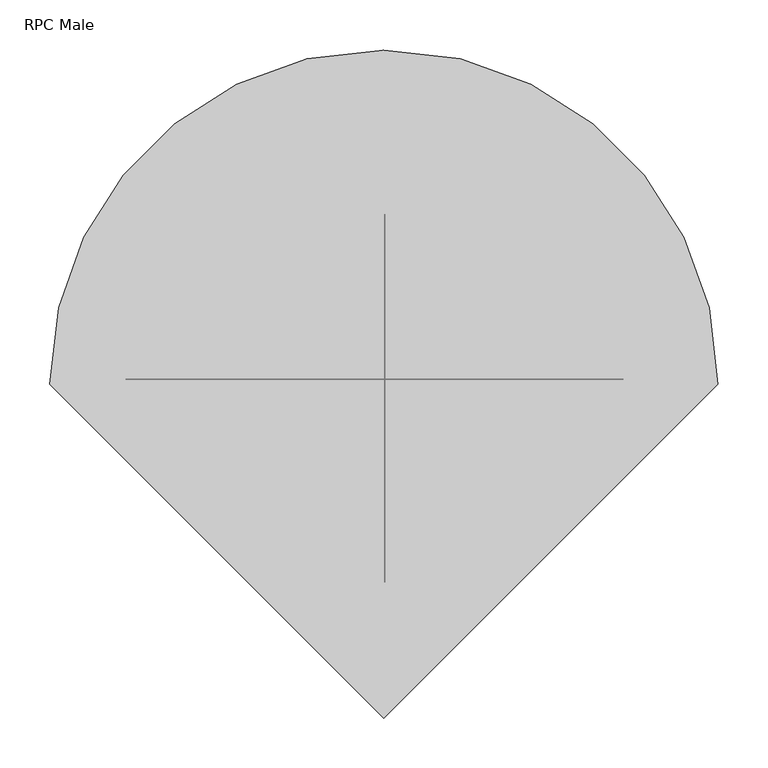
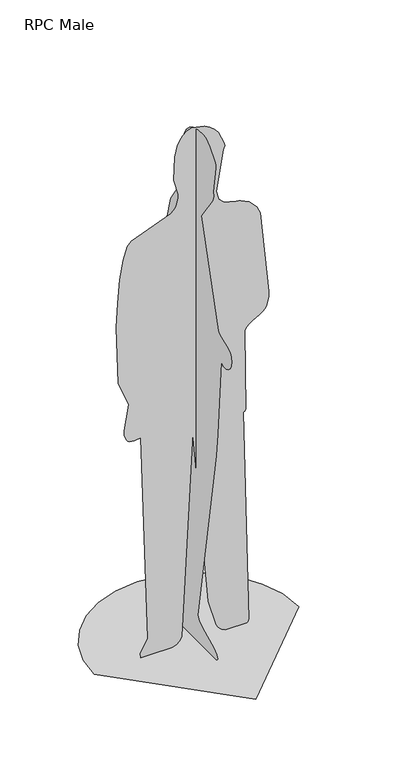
"""IFC4 building model written with IfcOpenShell, lengths in millimetres: proxy geometry, RPC Male : Dwayne."""

import ifcopenshell
import ifcopenshell.guid

model = None  # the IFC model being written
_history = None  # IfcOwnerHistory: only IFC2X3 demands one
_inside = {}  # id of a spatial element -> (the spatial element, [elements in it])
_under = {}  # id of a project, library or spatial element -> (it, [spatial elements below it])
_declared = {}  # id of a project -> (the project, [libraries it declares])
_typed = {}  # id of a type object -> (the type object, [elements of that type])
_made_of = {}  # id of a material, layer set ... -> (it, [elements and type objects made of it])


def new_model(schema):
    """Start an empty IFC model of exactly this schema.

    Asked for "IFC4X3", IfcOpenShell would pick the latest addendum, in which some entities
    have other attributes; the version numbers below select the first issue.
    IFC2X3 requires an IfcOwnerHistory on every rooted entity: one is made here for all.
    """
    global model, _history
    if schema == "IFC4X3":
        model = ifcopenshell.file(schema_version=(4, 3, 0, 0))
    else:
        model = ifcopenshell.file(schema=schema)
    _inside.clear()
    _under.clear()
    _declared.clear()
    _typed.clear()
    _made_of.clear()
    _history = None
    if model.schema == "IFC2X3":
        org = make("IfcOrganization", Name="unknown")
        user = make(
            "IfcPersonAndOrganization",
            ThePerson=make("IfcPerson", FamilyName="unknown"),
            TheOrganization=org,
        )
        app = make(
            "IfcApplication",
            ApplicationDeveloper=org,
            Version="unknown",
            ApplicationFullName="unknown",
            ApplicationIdentifier="unknown",
        )
        _history = make(
            "IfcOwnerHistory",
            OwningUser=user,
            OwningApplication=app,
            ChangeAction="ADDED",
            CreationDate=0,
        )
    return model


def make(cls, **values):
    """One entity of the class cls with the attributes given. An attribute that is None is left unset."""
    return model.create_entity(
        cls, **{name: value for name, value in values.items() if value is not None}
    )


def rooted(cls, **values):
    """An entity with a GlobalId (a new one), such as an element, a storey or a relation."""
    return make(cls, GlobalId=ifcopenshell.guid.new(), OwnerHistory=_history, **values)


def si_unit(unit_type, name, prefix=None):
    """IfcSIUnit, for example si_unit("LENGTHUNIT", "METRE", prefix="MILLI")."""
    return make("IfcSIUnit", UnitType=unit_type, Prefix=prefix, Name=name)


def assignment(units):
    """IfcUnitAssignment: the units of a project."""
    return None if units is None else make("IfcUnitAssignment", Units=units)


def point(xyz):
    """IfcCartesianPoint."""
    return None if xyz is None else make("IfcCartesianPoint", Coordinates=xyz)


def direction(xyz):
    """IfcDirection."""
    return None if xyz is None else make("IfcDirection", DirectionRatios=xyz)


def frame(location, z_axis=None, x_axis=None):
    """IfcAxis2Placement3D, a coordinate frame: its origin and axes. An axis left out is left unset."""
    return make(
        "IfcAxis2Placement3D",
        Location=point(location),
        Axis=direction(z_axis),
        RefDirection=direction(x_axis),
    )


def origin():
    """The frame at (0, 0, 0) with its axes left unset."""
    return frame((0.0, 0.0, 0.0))


def place(relative_to, where):
    """IfcLocalPlacement: puts the frame where relative to a parent placement (None: the world)."""
    return make(
        "IfcLocalPlacement", PlacementRelTo=relative_to, RelativePlacement=where
    )


def context(
    kind, dimensions, precision=None, world=None, true_north=None, identifier=None
):
    """IfcGeometricRepresentationContext, for example the 3D "Model" context."""
    return make(
        "IfcGeometricRepresentationContext",
        ContextIdentifier=identifier,
        ContextType=kind,
        CoordinateSpaceDimension=dimensions,
        Precision=precision,
        WorldCoordinateSystem=world,
        TrueNorth=true_north,
    )


def project(units=None, contexts=None):
    """IfcProject with its units and contexts."""
    return rooted(
        "IfcProject",
        Name="project",
        RepresentationContexts=contexts,
        UnitsInContext=assignment(units),
    )


def spatial(cls, under=None, at=None, **own):
    """A site, building, storey or space (cls), placed at a placement, below another one or the project."""
    s = rooted(cls, ObjectPlacement=at, **own)
    if under is not None:
        _under.setdefault(under.id(), (under, []))[1].append(s)
    return s


def point_list(points):
    """IfcCartesianPointList2D or 3D."""
    cls = (
        "IfcCartesianPointList2D" if len(points[0]) == 2 else "IfcCartesianPointList3D"
    )
    return make(cls, CoordList=points)


def triangles(points, corners, closed=None, point_numbers=None):
    """IfcTriangulatedFaceSet: each triangle names its three corners, points numbered from 1."""
    return make(
        "IfcTriangulatedFaceSet",
        Coordinates=point_list(points),
        Closed=closed,
        CoordIndex=corners,
        PnIndex=point_numbers,
    )


def shape(context_of_items, identifier, shape_type, items):
    """IfcShapeRepresentation: the items that make up one representation, for example the "Body"."""
    return make(
        "IfcShapeRepresentation",
        ContextOfItems=context_of_items,
        RepresentationIdentifier=identifier,
        RepresentationType=shape_type,
        Items=items,
    )


def source(mapping_origin, context_of_items, identifier, shape_type, items):
    """IfcRepresentationMap: a shape defined once, which mapped items show again and again."""
    return make(
        "IfcRepresentationMap",
        MappingOrigin=mapping_origin,
        MappedRepresentation=shape(context_of_items, identifier, shape_type, items),
    )


def transform(
    local_origin,
    x_axis=None,
    y_axis=None,
    z_axis=None,
    scale=None,
    scale2=None,
    scale3=None,
    uniform=True,
):
    """IfcCartesianTransformationOperator3D, or its non-uniform kind. x_axis, y_axis, z_axis: its Axis1, 2, 3."""
    if uniform:
        return make(
            "IfcCartesianTransformationOperator3D",
            Axis1=direction(x_axis),
            Axis2=direction(y_axis),
            LocalOrigin=point(local_origin),
            Scale=scale,
            Axis3=direction(z_axis),
        )
    return make(
        "IfcCartesianTransformationOperator3DnonUniform",
        Axis1=direction(x_axis),
        Axis2=direction(y_axis),
        LocalOrigin=point(local_origin),
        Scale=scale,
        Axis3=direction(z_axis),
        Scale2=scale2,
        Scale3=scale3,
    )


def mapped(mapping_source, mapping_target):
    """IfcMappedItem: shows the shape of a source again, moved by a transform."""
    return make(
        "IfcMappedItem", MappingSource=mapping_source, MappingTarget=mapping_target
    )


def made_of(thing, what):
    """Note that an element or type object is made of a material, layer set ...; save() writes the relation."""
    if what is not None:
        _made_of.setdefault(what.id(), (what, []))[1].append(thing)
    return thing


def element(
    cls,
    number,
    at=None,
    inside=None,
    cuts=None,
    type_object=None,
    material=None,
    context=None,
    identifier="Body",
    shape_type=None,
    held_by="IfcProductDefinitionShape",
    body=None,
    shapes=None,
    **own,
):
    """One element of the class cls, such as IfcWall. Its Tag is "e" and its number.

    at: its placement. inside: the storey or other place that contains it. cuts: it is an
    opening in that element (IfcRelVoidsElement). A single representation is given by context,
    identifier, shape_type and body (its items); several are given by shapes. held_by: the class
    of the entity that holds the representations. save() writes the other relations.
    """
    e = rooted(cls, Tag="e%d" % number, ObjectPlacement=at, **own)
    if body is not None:
        shapes = [shape(context, identifier, shape_type, body)]
    if shapes is not None:
        e.Representation = make(held_by, Representations=shapes)
    if inside is not None:
        _inside.setdefault(inside.id(), (inside, []))[1].append(e)
    if cuts is not None:
        rooted(
            "IfcRelVoidsElement", RelatingBuildingElement=cuts, RelatedOpeningElement=e
        )
    if type_object is not None:
        _typed.setdefault(type_object.id(), (type_object, []))[1].append(e)
    return made_of(e, material)


def aggregate(whole, parts):
    """IfcRelAggregates: a whole, such as a stair, and the parts it consists of."""
    return rooted("IfcRelAggregates", RelatingObject=whole, RelatedObjects=parts)


def save(model, path):
    """Write the relations noted so far, then the file.

    IfcRelAggregates (storeys below a building ...), IfcRelContainedInSpatialStructure (elements
    in a storey), IfcRelDefinesByType, IfcRelAssociatesMaterial and IfcRelDeclares: one each for
    every whole, place, type object, material and project.
    """
    for whole, parts in _under.values():
        aggregate(whole, parts)
    for where, things in _inside.values():
        rooted(
            "IfcRelContainedInSpatialStructure",
            RelatedElements=things,
            RelatingStructure=where,
        )
    for kind, things in _typed.values():
        rooted("IfcRelDefinesByType", RelatedObjects=things, RelatingType=kind)
    for what, things in _made_of.values():
        rooted("IfcRelAssociatesMaterial", RelatedObjects=things, RelatingMaterial=what)
    for by, libraries in _declared.values():
        rooted("IfcRelDeclares", RelatingContext=by, RelatedDefinitions=libraries)
    model.write(path)


def rpc_male_28878092(model_context):
    return source(origin(), model_context, "Body", "Tessellation", [
        triangles([(180.7519758, 4.45e-05, 5.61e-05), (184.2427693, 8.8e-06, 2.7953145), (186.1721755, -1.66e-05, 5.8375002), (186.8316374, -3.35e-05, 9.127569), (168.2846227, -8.5e-06, 733.0652109), (173.8813015, -8.5e-06, 735.2240908), (177.6698602, -8.1e-06, 740.93319), (174.1985423, 8.1e-06, 1013.6682867), (179.591309, 8.8e-06, 1024.1651751), (188.0395216, 9.6e-06, 1032.7759867), (198.5267085, 9.9e-06, 1040.1126028), (210.0363257, 1.03e-05, 1046.7864687), (221.5520472, 1.07e-05, 1053.4092476), (232.0572199, 1.1e-05, 1060.5929661), (240.5353907, 1.14e-05, 1068.9488514), (245.9518842, 1.21e-05, 1078.9880642), (249.7386988, 1.29e-05, 1091.9821838), (252.1552483, 1.4e-05, 1106.9298906), (253.4607645, 1.47e-05, 1122.8295742), (224.2188539, 3.16e-05, 1405.054644), (213.7949444, 3.31e-05, 1430.2019463), (189.1319694, 3.46e-05, 1456.0842327), (160.624934, 3.53e-05, 1468.8737137), (131.9229886, 3.57e-05, 1475.6378357), (106.6752928, 3.64e-05, 1483.4436092), (88.5310242, 3.71e-05, 1499.3593529), (81.1392697, 3.9e-05, 1530.4516411), (102.942045, 4.71e-05, 1666.4696468), (107.9472446, 4.78e-05, 1679.2650867), (108.1474504, 4.82e-05, 1680.5741638), (107.984815, 4.82e-05, 1682.7587688), (107.5268306, 4.82e-05, 1685.5190655), (106.840944, 4.86e-05, 1688.5553627), (86.6409052, 5.11e-05, 1733.0902897), (74.2774293, 5.19e-05, 1747.7183212), (59.5121605, 5.26e-05, 1759.6594528), (42.363121, 5.33e-05, 1768.7777916), (0.9855255, 5.37e-05, 1777.9990311), (-15.8808757, 5.33e-05, 1772.5528519), (-29.1619555, 5.26e-05, 1761.5639877), (-39.2640369, 5.19e-05, 1747.0962662), (-46.5934632, 5.08e-05, 1731.2140961), (-56.009163, 4.89e-05, 1695.7207684), (-59.1639487, 4.41e-05, 1618.2087845), (-44.4858339, 4.12e-05, 1564.7278919), (-44.3096682, 4.05e-05, 1551.1862766), (-46.5532813, 3.94e-05, 1537.9279289), (-51.2886345, 3.86e-05, 1525.4359589), (-58.5876575, 3.83e-05, 1514.1926044), (-68.5223164, 3.75e-05, 1504.6808304), (-198.4030241, 3.46e-05, 1454.5808361), (-210.7095586, 3.38e-05, 1440.8296406), (-224.9005892, 3.13e-05, 1397.8447643), (-235.5369131, 2.72e-05, 1333.6069702), (-242.7580384, 2.28e-05, 1256.1532677), (-246.7032373, 1.77e-05, 1173.5211021), (-240.2781571, 5.9e-06, 974.9290089), (-206.081389, 1.1e-06, 891.6222479), (-221.1961823, -4e-06, 805.6633232), (-220.4650678, -5.1e-06, 788.6200321), (-214.9948893, -6.3e-06, 771.8045614), (-210.3552016, -6.6e-06, 765.7300776), (-204.1668257, -6.6e-06, 762.0919275), (-196.8959759, -7e-06, 760.3982082), (-189.0090118, -7e-06, 760.1573799), (-180.9721295, -7e-06, 760.8774668), (-173.2515615, -6.6e-06, 762.0669291), (-166.3135766, -6.6e-06, 763.2339363), (-144.8011179, -4.49e-05, 59.4752896), (-168.6275342, -4.74e-05, 15.3365843), (-166.1985945, 4.45e-05, 5.61e-05), (-66.1332089, 4.45e-05, 5.61e-05), (-49.8425018, 1.03e-05, 3.9765591), (-39.0246256, -1.36e-05, 14.0353), (-32.5983009, -2.91e-05, 28.3297116), (2.7441046, -9.2e-06, 720.0458748), (54.0725034, -1.03e-05, 117.9433278), (81.3720135, 2.13e-05, 28.0047427), (85.5237041, 2.69e-05, 19.9172686), (91.2433859, 3.27e-05, 12.5691172), (99.2451413, 3.86e-05, 5.9378887), (110.2431982, 4.45e-05, 5.61e-05), (13.8237406, 127.6718764, 9.9621145), (13.8237974, 127.2617633, 182.0842528), (13.8237815, 135.2635732, 744.8695776), (13.8237815, 136.4149928, 748.3460369), (13.8237815, 139.3954704, 752.5736132), (13.8237815, 143.4944026, 757.5058702), (13.8237815, 148.0010861, 763.0962994), (13.8237815, 152.2049901, 769.2983917), (13.8237792, 155.3953659, 776.0656385), (13.8237792, 156.8616281, 783.3516764), (13.8237622, 165.9465024, 1358.6137287), (13.8237599, 143.2743216, 1442.0927902), (13.8237576, 71.1145501, 1552.8585583), (13.8237576, 64.3401725, 1580.5206779), (13.8237542, 73.5344014, 1684.7952724), (13.8237531, 67.2131212, 1712.2161278), (13.8237531, 55.241223, 1734.9070393), (13.8237531, 37.9260212, 1752.7537697), (13.8237531, 15.5748771, 1765.6426632), (13.8237531, -11.5049084, 1773.4593372), (13.8237531, -43.0059914, 1776.090136), (13.8237531, -55.0860226, 1772.9164925), (13.8237542, -79.7038559, 1756.3218658), (13.8237554, -107.4896145, 1722.3477768), (13.8237554, -111.5711695, 1713.01012), (13.8237554, -112.2229284, 1702.3019073), (13.8237588, -99.0832235, 1611.9284992), (13.8237588, -100.6007272, 1597.8206394), (13.8237599, -96.755177, 1579.0656796), (13.8237622, -31.1784566, 1488.4592915), (13.8237735, -125.7984261, 1146.7472277), (13.8237735, -134.1993577, 1137.675107), (13.8237747, -184.2799037, 1119.3925747), (13.8237747, -194.4649651, 1111.9394686), (13.8237747, -201.1343255, 1100.3801451), (13.8237769, -203.5508567, 1084.2058416), (13.8237769, -200.9674025, 1068.9640394), (13.8237769, -194.2820729, 1055.8707253), (13.8237769, -184.3928146, 1046.1415226), (13.8237769, -172.1978105, 1040.992709), (13.8237769, -158.595007, 1041.6399078), (13.8237769, -144.48246, 1049.299106), (13.8237838, -123.0429529, 785.7648285), (13.823786, -116.906318, 707.2429499), (13.8237928, -10.2023683, 90.6853168), (13.823794, -17.983895, 76.1481908), (13.8237951, -35.4714404, 63.806743), (13.8238042, -104.5965316, 31.8661463), (13.8238053, -119.3344402, 20.2173661), (13.8238076, -122.9915025, 6.7192091), (13.8238042, -122.0607091, 4.3674998), (13.8237894, -120.3451706, 2.3141478), (13.8237724, -119.1853577, 1.4285653), (13.8237474, -117.8199432, 0.6534771), (13.8237099, -116.2458387, 5.61e-05), (13.8237077, 124.501612, 0.0), (348.4734607, -4.7230039, 0.0001684), (339.5987117, 72.1961519, 0.0001684), (314.3237646, 142.8340959, 5.61e-05), (274.6722241, 205.1669827, 5.61e-05), (222.6681673, 257.171094, 5.61e-05), (160.3352533, 296.8225073, 5.61e-05), (89.6973139, 322.097527, 5.61e-05), (12.7781649, 330.972276, 5.61e-05), (-64.1409886, 322.0975634, 5.61e-05), (-134.7789371, 296.8225618, 5.61e-05), (-197.1118239, 257.1710577, 5.61e-05), (-249.1159897, 205.1670008, 5.61e-05), (-288.7673667, 142.8340595, 5.61e-05), (-314.0423864, 72.1960974, 0.0001684), (-322.9171354, -4.7230331, 0.0001684), (12.7782239, -340.4182474, 0.0001684)], [[70, 71, 72], [69, 70, 72], [69, 72, 73], [69, 73, 74], [69, 74, 75], [69, 75, 76], [68, 69, 76], [82, 1, 2], [82, 2, 3], [82, 3, 4], [81, 82, 4], [80, 81, 4], [79, 80, 4], [78, 79, 4], [77, 78, 4], [77, 4, 5], [76, 77, 5], [5, 6, 7], [76, 5, 7], [76, 7, 8], [68, 76, 8], [67, 68, 8], [66, 67, 8], [65, 66, 8], [64, 65, 8], [63, 64, 8], [62, 63, 8], [61, 62, 8], [60, 61, 8], [59, 60, 8], [58, 59, 8], [57, 58, 8], [56, 57, 8], [56, 8, 9], [55, 56, 9], [55, 9, 10], [54, 55, 10], [54, 10, 11], [53, 54, 11], [53, 11, 12], [52, 53, 12], [51, 52, 12], [50, 51, 12], [50, 12, 13], [50, 13, 14], [50, 14, 15], [50, 15, 16], [50, 16, 17], [50, 17, 18], [50, 18, 19], [50, 19, 20], [50, 20, 21], [50, 21, 22], [50, 22, 23], [50, 23, 24], [50, 24, 25], [50, 25, 26], [49, 50, 26], [48, 49, 26], [48, 26, 27], [47, 48, 27], [46, 47, 27], [45, 46, 27], [44, 45, 27], [44, 27, 28], [43, 44, 28], [42, 43, 28], [42, 28, 29], [42, 29, 30], [42, 30, 31], [42, 31, 32], [42, 32, 33], [42, 33, 34], [42, 34, 35], [42, 35, 36], [42, 36, 37], [41, 42, 37], [40, 41, 37], [40, 37, 38], [40, 38, 39], [137, 138, 83], [137, 83, 84], [136, 137, 84], [135, 136, 84], [130, 131, 132], [130, 132, 133], [130, 133, 134], [130, 134, 135], [122, 123, 124], [121, 122, 124], [120, 121, 124], [119, 120, 124], [118, 119, 124], [117, 118, 124], [116, 117, 124], [115, 116, 124], [114, 115, 124], [113, 114, 124], [106, 107, 108], [105, 106, 108], [104, 105, 108], [103, 104, 108], [102, 103, 108], [101, 102, 108], [100, 101, 108], [99, 100, 108], [98, 99, 108], [97, 98, 108], [97, 108, 109], [97, 109, 110], [97, 110, 111], [96, 97, 111], [95, 96, 111], [95, 111, 112], [94, 95, 112], [93, 94, 112], [93, 112, 113], [92, 93, 113], [92, 113, 124], [92, 124, 125], [91, 92, 125], [90, 91, 125], [89, 90, 125], [88, 89, 125], [87, 88, 125], [86, 87, 125], [86, 125, 126], [85, 86, 126], [85, 126, 127], [84, 85, 127], [84, 127, 128], [135, 84, 128], [135, 128, 129], [130, 135, 129], [153, 154, 139], [152, 153, 139], [152, 139, 140], [151, 152, 140], [151, 140, 141], [151, 141, 142], [150, 151, 142], [149, 150, 142], [149, 142, 143], [149, 143, 144], [149, 144, 145], [149, 145, 146], [149, 146, 147], [149, 147, 148]], closed=False),
    ])


if __name__ == "__main__":
    model = new_model("IFC4")
    model_context = context("Model", 3, world=origin())
    ifc_project = project(units=[si_unit("LENGTHUNIT", "METRE", prefix="MILLI")], contexts=[model_context])
    site = spatial("IfcSite", under=ifc_project)
    building = spatial("IfcBuilding", under=site)
    placement = place(None, origin())
    rpc_male_shape = rpc_male_28878092(model_context)
    element("IfcBuildingElementProxy", 1, Name="RPC Male : Dwayne", ObjectType="RPC Male : Dwayne", at=placement, inside=building, context=model_context, shape_type="MappedRepresentation", body=[
        mapped(rpc_male_shape, transform((0.0, 0.0, 0.0), x_axis=(1.0, 0.0, 0.0), y_axis=(0.0, 1.0, 0.0), z_axis=(0.0, 0.0, 1.0))),
    ])
    save(model, "model.ifc")
